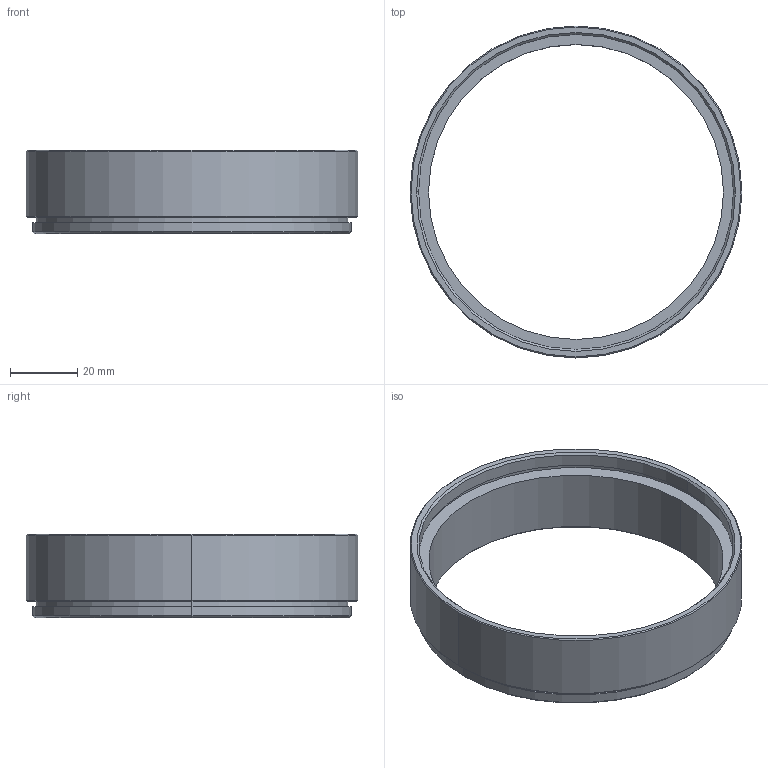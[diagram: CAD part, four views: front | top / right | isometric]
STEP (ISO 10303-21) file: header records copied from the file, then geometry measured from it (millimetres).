
FILE_DESCRIPTION (( 'STEP AP203' ), '1' );
FILE_NAME ('EXR-M95-L20_A23443A0100101A-001.STEP', '2019-03-14T02:29:22', ( '' ), ( '' ), 'SwSTEP 2.0', 'SolidWorks 2014', '' );
FILE_SCHEMA (( 'CONFIG_CONTROL_DESIGN' ));
Length unit declared in the file: millimetre
Products named in the file (1): EXR-M95-L20_A23443A0100101A-001
Bounding box: 99 x 99 x 25 mm (x, y, z)
Volume: 31171.6 mm3; surface area: 18787.2 mm2
Topology: 1 solids, 1 shells, 28 faces, 56 edges, 34 vertices
Faces by surface type: cylinder 12, cone 10, plane 6
Entity records: 815 total; most frequent: DIRECTION 148, CARTESIAN_POINT 119, ORIENTED_EDGE 112, AXIS2_PLACEMENT_3D 63, EDGE_CURVE 56, EDGE_LOOP 34, VERTEX_POINT 34, CIRCLE 34
